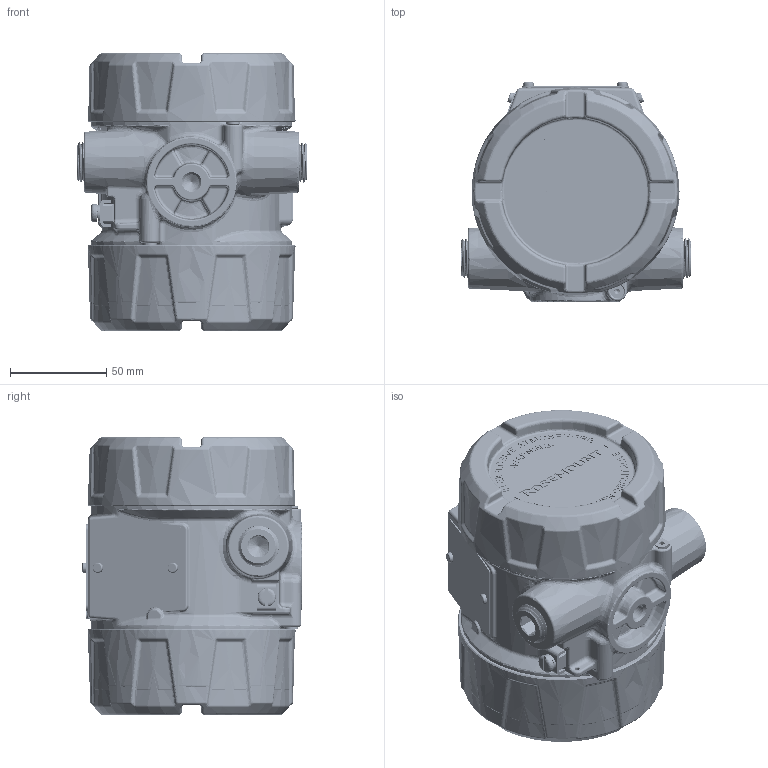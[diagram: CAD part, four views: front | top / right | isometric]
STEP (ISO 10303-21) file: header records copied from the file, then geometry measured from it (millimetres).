
FILE_DESCRIPTION((''),'2;1');
FILE_NAME('3144S-M5_ASM','2025-07-25T08:57:30',('johnarm'),('Rosemount Measurement Division'),'CREO PARAMETRIC BY PTC INC, 2021184','CREO PARAMETRIC BY PTC INC, 2021184','');
FILE_SCHEMA(('CONFIG_CONTROL_DESIGN'));
Products named in the file (166): 04148-2201-0011_127_1_1_1; 04151-3011-0001_5_1_1_1; 04151-3012-D0005_4_1_1_1; 04151-3012-D0001_3_1_1_1; 04151-3012-0001_ASM_9_ASM_1_ASM_ASM; 04151-3013-0001_ASM_10_ASM_1_AS_ASM; C12219-0204_7_1_1_1; C12215-1004-0208_14_1_1_1; 04151-3207-X1XX_ASM_10_ASM_1_AS_ASM; 04151-3199-XXXX_8_1_1_1; 04151-3800-0010_4_1_1_1; C50112-0405-0102_6_1_1_1; 04148-2101-D0001_8_1_1_1; 03151-4071-0001_19_1_1_1; 00644-1230-0006_11_1_1_1; C50352-0003-D0001_38_1_1_1_1; C50352-0003-D0001_38_2_1_1_1; C50352-0003-D0001_38_3_1_1_1; C50352-0003-D0001_38_4_1_1_1; C50352-0003-D0001_38_5_1_1_1; C50352-0003-D0001_38_6_1_1_1; C50352-0003-D0001_38_7_1_1_1; C50352-0003-D0001_38_8_1_1_1; C50352-0003-D0001_38_ASM_1_ASM__ASM; _S1SQW-108-01-S-D-VS_1_2_2_1_1_; _P1SQW-108-01-S-D-VS_1_2_2_1_1_; SQW-108-01-S-D-VS_1_2_ASM_2_ASM_ASM; CONN16_SM_RS_200_2X8_SQW_1_2_AS_ASM; 04148-2102-D0001_ASM_22_ASM_1_A_ASM; C51584-0206-D0001_8_1_1_1; C11397-3SCRW_6_1_1_1; C11397-3WSHR_6_1_1_1; C11397-0003_ASM_2_ASM_1_ASM_1_A_ASM; 04151-3802-XXXX_2_1_1_1; 04151-3803-XXXX_11_1_1_1; 04148-2102-XXXX_ASM_19_ASM_1_AS_ASM; C10375-0050-0239_13_1_1_1; C50392-D0001_7_1_1_1; 03031-0702-0001_8_1_1_1; 03031-0701-0001_2_1_1_1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
Assembly tree (230 placements, depth 8):
  3144S-M5_ASM
    04148-1021-D0001_ASM_56_ASM_1_A_ASM
      04151-3207-X1XX_ASM_10_ASM_1_AS_ASM
        04148-2201-0011_127_1_1_1
        04151-3013-0001_ASM_10_ASM_1_AS_ASM
          04151-3011-0001_5_1_1_1  x2
          04151-3012-0001_ASM_9_ASM_1_ASM_ASM
            04151-3012-D0005_4_1_1_1  x2
            04151-3012-D0001_3_1_1_1  x16
        C12219-0204_7_1_1_1
        C12215-1004-0208_14_1_1_1
      04151-3199-XXXX_8_1_1_1
      04148-2102-XXXX_ASM_19_ASM_1_AS_ASM
        04151-3800-0010_4_1_1_1
        C50112-0405-0102_6_1_1_1  x3
        04148-2102-D0001_ASM_22_ASM_1_A_ASM
          04148-2101-D0001_8_1_1_1
          03151-4071-0001_19_1_1_1  x10
          00644-1230-0006_11_1_1_1  x2
          C50352-0003-D0001_38_ASM_1_ASM__ASM
            C50352-0003-D0001_38_1_1_1_1
            C50352-0003-D0001_38_2_1_1_1
            C50352-0003-D0001_38_3_1_1_1
            C50352-0003-D0001_38_4_1_1_1
            C50352-0003-D0001_38_5_1_1_1
            C50352-0003-D0001_38_6_1_1_1
            C50352-0003-D0001_38_7_1_1_1
            C50352-0003-D0001_38_8_1_1_1
          CONN16_SM_RS_200_2X8_SQW_1_2_AS_ASM
            SQW-108-01-S-D-VS_1_2_ASM_2_ASM_ASM
              _S1SQW-108-01-S-D-VS_1_2_2_1_1_
              _P1SQW-108-01-S-D-VS_1_2_2_1_1_
        C51584-0206-D0001_8_1_1_1  x3
        C11397-0003_ASM_2_ASM_1_ASM_1_A_ASM  x10
          C11397-3SCRW_6_1_1_1
          C11397-3WSHR_6_1_1_1
        04151-3802-XXXX_2_1_1_1
        04151-3803-XXXX_11_1_1_1
      C10375-0050-0239_13_1_1_1  x2
      C50392-D0001_7_1_1_1  x2
      03031-0383-0001_ASM_9_ASM_1_ASM_ASM
        03031-0702-0001_8_1_1_1
        03031-0701-0001_2_1_1_1
        C12219-0205_4_1_1_1
        C12215-1005-0212_28_1_1_1
      04151-3001-0001_105_1_1_1  x2
      04151-3502-XXXX_ASM_25_ASM_1_AS_ASM
        04151-3502-D0301_ASM_17_ASM_1_A_ASM
          04151-3501-XXXX_3_1_1_1
          C56154-0001_ASM_7_ASM_1_ASM_1_A_ASM
            C56154-0001-D0101_ASM_7_ASM_1_A_ASM
              C56154-0001-D0002_4_1_1_1
              C56154-0001-D0001_4_1_1_1
          C53511-0014_ASM_11_ASM_1_ASM_1__ASM
            C53511-0014-D0001_4_1_1_1
            C53511-0014-D0002_3_1_1_1
            C53511-0014-D0003_6_1_1_1
          C55065-0001_17_1_1_1  x2
          04151-3502-D0022_ASM_9_ASM_1_AS_ASM
            04151-3502-D0021_6_ASM_1_ASM_1__ASM
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Bounding box: 119.91 x 113.86 x 144.02 mm (x, y, z)
Volume: 841449.2 mm3; surface area: 473943.2 mm2
Topology: 212 solids, 271 shells, 31075 faces, 79982 edges, 48996 vertices
Faces by surface type: plane 13161, cylinder 8285, bspline 3789, torus 2223, cone 1382, sphere 1255, extrusion 970, revolution 10
Entity records: 978368 total; most frequent: CARTESIAN_POINT 390334, ORIENTED_EDGE 128313, DIRECTION 111446, EDGE_CURVE 64224, VERTEX_POINT 39712, AXIS2_PLACEMENT_3D 38253, VECTOR 34930, LINE 34288
